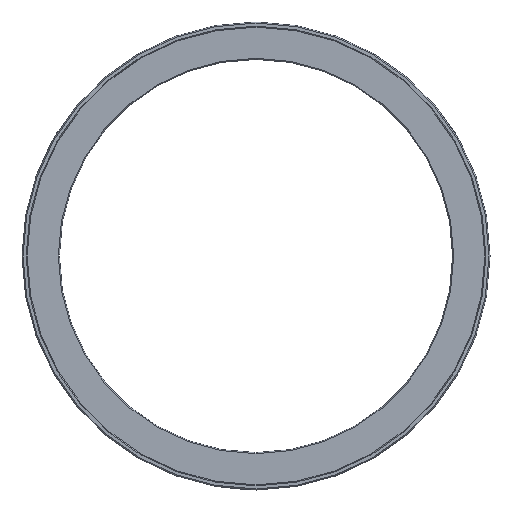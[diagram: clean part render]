
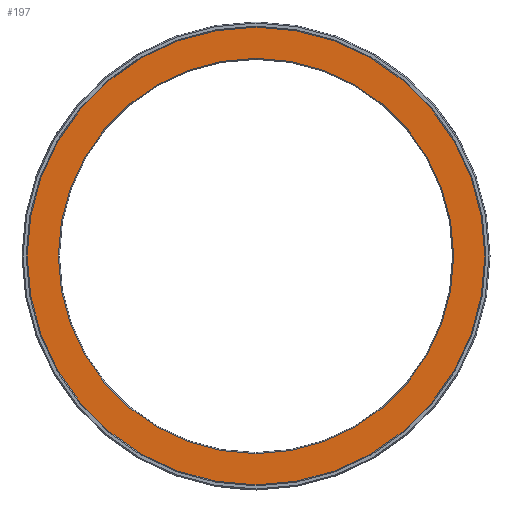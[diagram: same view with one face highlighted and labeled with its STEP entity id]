
A CAD part, left-side view. The second image highlights one B-rep face of the part: STEP entity #197.
In plain terms, the highlighted planar face has unit normal (-1, 0, 0).
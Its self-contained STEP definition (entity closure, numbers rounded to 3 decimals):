
#163=PLANE('',#797);
#197=ADVANCED_FACE('',(#265,#266),#163,.T.);
#265=FACE_BOUND('',#316,.T.);
#266=FACE_BOUND('',#317,.T.);
#316=EDGE_LOOP('',(#471));
#317=EDGE_LOOP('',(#472));
#471=ORIENTED_EDGE('',*,*,#652,.T.);
#472=ORIENTED_EDGE('',*,*,#651,.F.);
#569=VERTEX_POINT('',#1259);
#570=VERTEX_POINT('',#1262);
#651=EDGE_CURVE('',#569,#569,#709,.T.);
#652=EDGE_CURVE('',#570,#570,#710,.T.);
#709=CIRCLE('',#794,122.25);
#710=CIRCLE('',#796,105.577);
#794=AXIS2_PLACEMENT_3D('',#1258,#975,#976);
#796=AXIS2_PLACEMENT_3D('',#1261,#979,#980);
#797=AXIS2_PLACEMENT_3D('',#1263,#981,#982);
#975=DIRECTION('',(1.,0.,0.));
#976=DIRECTION('',(0.,0.,-1.));
#979=DIRECTION('',(1.,0.,0.));
#980=DIRECTION('',(0.,0.,1.));
#981=DIRECTION('',(-1.,0.,0.));
#982=DIRECTION('',(0.,0.,1.));
#1258=CARTESIAN_POINT('',(0.,0.,0.));
#1259=CARTESIAN_POINT('',(0.,0.,-122.25));
#1261=CARTESIAN_POINT('',(0.,0.,0.));
#1262=CARTESIAN_POINT('',(0.,0.,105.577));
#1263=CARTESIAN_POINT('',(0.,122.25,0.));
